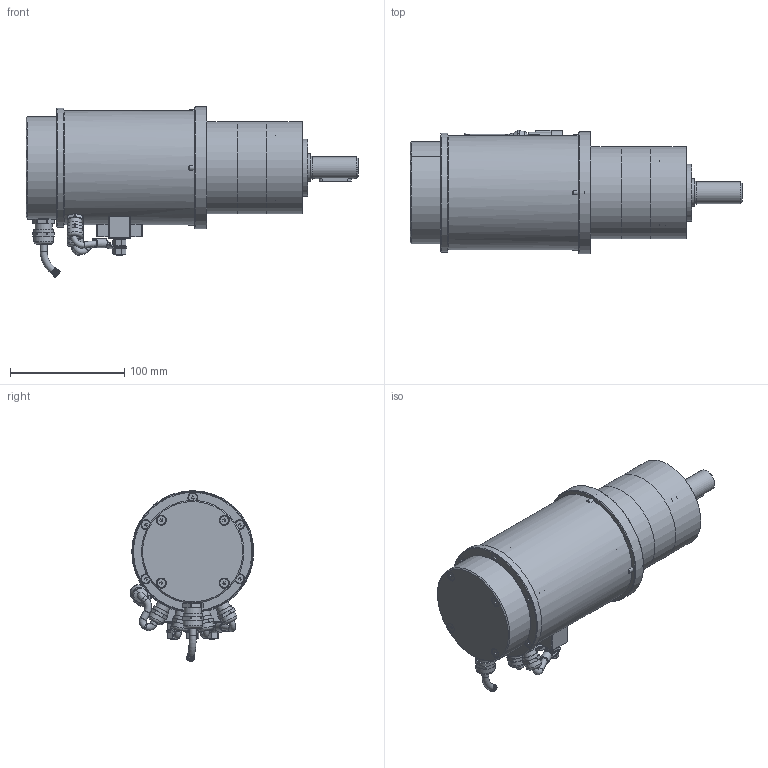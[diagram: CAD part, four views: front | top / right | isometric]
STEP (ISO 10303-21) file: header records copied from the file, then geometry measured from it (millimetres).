
FILE_DESCRIPTION(/* description */ (''),/* implementation_level */ '2;1');
FILE_NAME(/* name */ 'Z:\SITO WEB 2023\Motoriduttori\Motoriduttori PMAC\D.90 mm\BL090.PM81.stp',/* time_stamp */ '2023-09-20T09:13:36+02:00',/* author */ ('cad3'),/* organization */ (''),/* preprocessor_version */ 'ST-DEVELOPER v18.1',/* originating_system */ 'Autodesk Inventor 2022',/* authorisation */ '');
FILE_SCHEMA (('AUTOMOTIVE_DESIGN { 1 0 10303 214 3 1 1 }'));
Products named in the file (1): BL090.PM81
Bounding box: 291.2 x 108.37 x 149.64 mm (x, y, z)
Volume: 866493 mm3; surface area: 224599.6 mm2
Topology: 3 solids, 24 shells, 2440 faces, 6267 edges, 3970 vertices
Faces by surface type: plane 1640, cylinder 366, cone 220, bspline 157, torus 57
Full cylindrical faces by diameter (mm): 2.459 x3, 3.242 x16, 4 x10, 4.134 x4, 4.5 x10, 5 x21, 5.4 x2, 5.5 x4, 6 x19, 6.2 x6, 6.4 x11, 6.5 x3, 6.647 x1, 7.5 x4, 7.64 x10, 8 x4, 8.5 x14, 8.88 x3, 9 x4, 9.64 x2, 10 x7, 10.5 x4, 11 x3, 12 x9, 14 x8, 15 x1, 17 x2, 18 x1, 18.25 x1, 19 x1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
Entity records: 80562 total; most frequent: CARTESIAN_POINT 19431, ORIENTED_EDGE 12450, DIRECTION 11902, EDGE_CURVE 6225, AXIS2_PLACEMENT_3D 4127, VERTEX_POINT 3970, LINE 3648, VECTOR 3648
